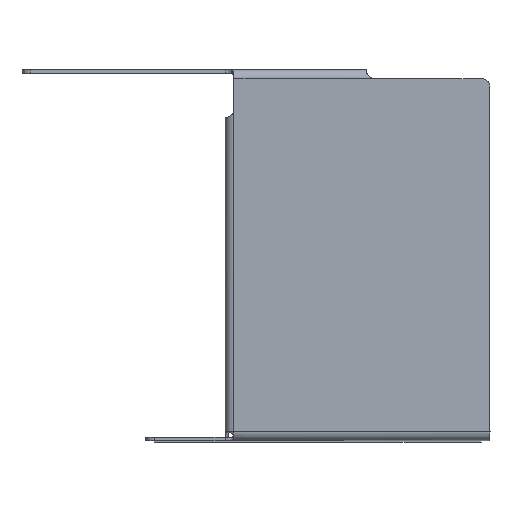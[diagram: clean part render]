
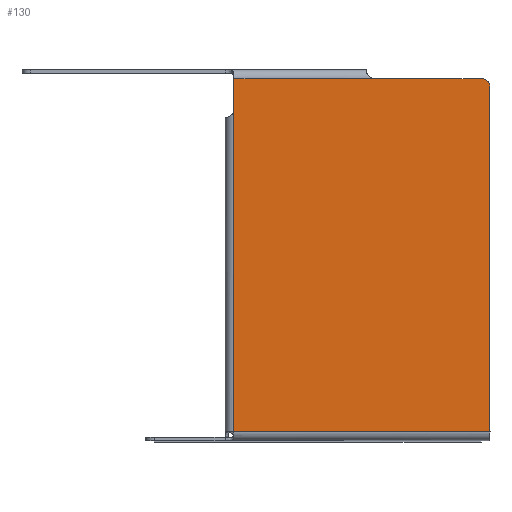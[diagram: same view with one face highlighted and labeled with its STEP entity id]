
A CAD part, front view. The second image highlights one B-rep face of the part: STEP entity #130.
In plain terms, the highlighted planar face has unit normal (0, -1, 0).
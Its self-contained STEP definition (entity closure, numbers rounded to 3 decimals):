
#19=(
BOUNDED_CURVE()
B_SPLINE_CURVE(1,(#3571,#3572),.UNSPECIFIED.,.F.,.F.)
B_SPLINE_CURVE_WITH_KNOTS((2,2),(0.,366.),.UNSPECIFIED.)
CURVE()
GEOMETRIC_REPRESENTATION_ITEM()
RATIONAL_B_SPLINE_CURVE((1.,1.))
REPRESENTATION_ITEM('')
);
#22=(
BOUNDED_CURVE()
B_SPLINE_CURVE(1,(#3604,#3605),.UNSPECIFIED.,.F.,.F.)
B_SPLINE_CURVE_WITH_KNOTS((2,2),(0.,159.667),
 .UNSPECIFIED.)
CURVE()
GEOMETRIC_REPRESENTATION_ITEM()
RATIONAL_B_SPLINE_CURVE((1.,1.))
REPRESENTATION_ITEM('')
);
#47=PLANE('',#1104);
#130=ADVANCED_FACE('',(#190),#47,.T.);
#190=FACE_OUTER_BOUND('',#250,.T.);
#250=EDGE_LOOP('',(#501,#502,#503,#504,#505,#506,#507,#508));
#501=ORIENTED_EDGE('',*,*,#694,.F.);
#502=ORIENTED_EDGE('',*,*,#695,.T.);
#503=ORIENTED_EDGE('',*,*,#696,.T.);
#504=ORIENTED_EDGE('',*,*,#697,.F.);
#505=ORIENTED_EDGE('',*,*,#643,.F.);
#506=ORIENTED_EDGE('',*,*,#632,.T.);
#507=ORIENTED_EDGE('',*,*,#637,.F.);
#508=ORIENTED_EDGE('',*,*,#679,.T.);
#632=EDGE_CURVE('',#926,#924,#792,.T.);
#637=EDGE_CURVE('',#895,#924,#19,.T.);
#643=EDGE_CURVE('',#926,#928,#22,.T.);
#679=EDGE_CURVE('',#895,#947,#831,.T.);
#694=EDGE_CURVE('',#951,#947,#842,.T.);
#695=EDGE_CURVE('',#951,#952,#843,.T.);
#696=EDGE_CURVE('',#952,#953,#844,.T.);
#697=EDGE_CURVE('',#928,#953,#845,.T.);
#792=B_SPLINE_CURVE_WITH_KNOTS('',1,(#3558,#3559),.UNSPECIFIED.,.F.,.F.,
(2,2),(0.,34.),.UNSPECIFIED.);
#831=B_SPLINE_CURVE_WITH_KNOTS('',1,(#3692,#3693),.UNSPECIFIED.,.F.,.F.,
(2,2),(0.,290.),.UNSPECIFIED.);
#842=B_SPLINE_CURVE_WITH_KNOTS('',1,(#3817,#3818),.UNSPECIFIED.,.F.,.F.,
(2,2),(-390.,0.),.UNSPECIFIED.);
#843=B_SPLINE_CURVE_WITH_KNOTS('',3,(#3819,#3820,#3821,#3822),
 .UNSPECIFIED.,.F.,.F.,(4,4),(-15.708,0.),.UNSPECIFIED.);
#844=B_SPLINE_CURVE_WITH_KNOTS('',1,(#3823,#3824),.UNSPECIFIED.,.F.,.F.,
(2,2),(10.,130.),.UNSPECIFIED.);
#845=B_SPLINE_CURVE_WITH_KNOTS('',1,(#3825,#3826),.UNSPECIFIED.,.F.,.F.,
(2,2),(159.667,160.),.UNSPECIFIED.);
#895=VERTEX_POINT('',#3313);
#924=VERTEX_POINT('',#3342);
#926=VERTEX_POINT('',#3344);
#928=VERTEX_POINT('',#3346);
#947=VERTEX_POINT('',#3365);
#951=VERTEX_POINT('',#3369);
#952=VERTEX_POINT('',#3370);
#953=VERTEX_POINT('',#3371);
#1104=AXIS2_PLACEMENT_3D('',#3111,#1149,$);
#1149=DIRECTION('',(0.,-1.,0.));
#3111=CARTESIAN_POINT('',(239.997,0.005,412.));
#3313=CARTESIAN_POINT('',(239.997,0.005,12.));
#3342=CARTESIAN_POINT('',(239.997,0.005,378.));
#3344=CARTESIAN_POINT('',(239.997,0.005,412.));
#3346=CARTESIAN_POINT('',(399.664,0.005,412.));
#3365=CARTESIAN_POINT('',(529.997,0.005,12.));
#3369=CARTESIAN_POINT('',(529.997,0.005,402.));
#3370=CARTESIAN_POINT('',(519.997,0.005,412.));
#3371=CARTESIAN_POINT('',(399.997,0.005,412.));
#3558=CARTESIAN_POINT('',(239.997,0.005,412.));
#3559=CARTESIAN_POINT('',(239.997,0.005,378.));
#3571=CARTESIAN_POINT('',(239.997,0.005,12.));
#3572=CARTESIAN_POINT('',(239.997,0.005,378.));
#3604=CARTESIAN_POINT('',(239.997,0.005,412.));
#3605=CARTESIAN_POINT('',(399.664,0.005,412.));
#3692=CARTESIAN_POINT('',(239.997,0.005,12.));
#3693=CARTESIAN_POINT('',(529.997,0.005,12.));
#3817=CARTESIAN_POINT('',(529.997,0.005,402.));
#3818=CARTESIAN_POINT('',(529.997,0.005,12.));
#3819=CARTESIAN_POINT('',(529.997,0.005,402.));
#3820=CARTESIAN_POINT('',(529.997,0.005,407.523));
#3821=CARTESIAN_POINT('',(525.52,0.005,412.));
#3822=CARTESIAN_POINT('',(519.997,0.005,412.));
#3823=CARTESIAN_POINT('',(519.997,0.005,412.));
#3824=CARTESIAN_POINT('',(399.997,0.005,412.));
#3825=CARTESIAN_POINT('',(399.664,0.005,412.));
#3826=CARTESIAN_POINT('',(399.997,0.005,412.));
